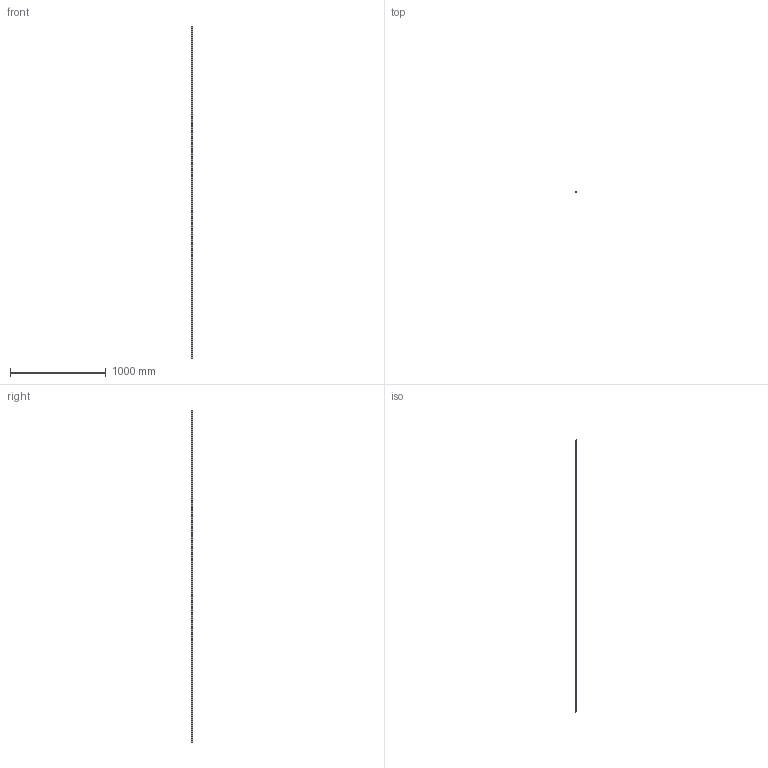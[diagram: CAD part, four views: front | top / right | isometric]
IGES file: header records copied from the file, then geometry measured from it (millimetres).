
Start section: SolidWorks IGES file using analytic representation for surfaces
Global section: file name: C:\Users\IanO\Desktop\L1016_v2\L1016.BL15_v2\L1016.BL15_v2_20190611_IGES\L1016.BL15-3460.igs; native system: SolidWorks 2017; preprocessor: SolidWorks 2017; author: IanO; date: 190612.123629; units: millimetre
Bounding box: 15 x 13 x 3460 mm (x, y, z)
Surface area: 211245.2 mm2 (no closed solid volume)
Topology: 0 solids, 0 shells, 316 faces, 8504 edges, 8504 vertices
Faces by surface type: revolution 236, bspline 80
